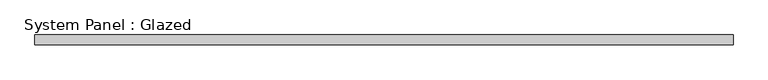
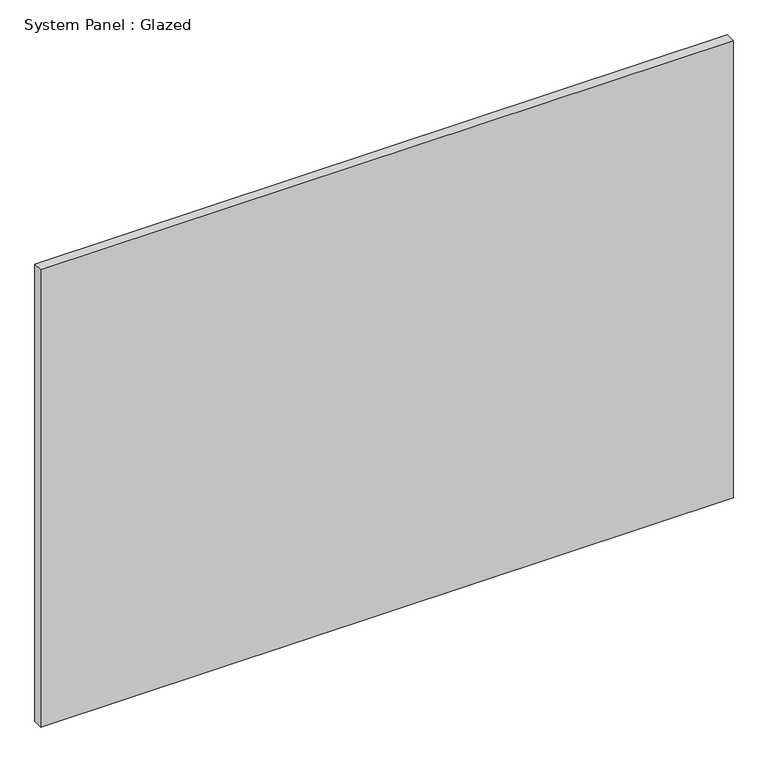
"""IFC4 building model written with IfcOpenShell, lengths in millimetres: plate geometry, System Panel : Glazed."""

from ifc_helpers import new_model, si_unit, origin, origin_with_axes, place, context, project, spatial, polyline, outline, extrude, source, transform, mapped, element, save


def system_panel_glazed_14748420(model_context):
    return source(origin(), model_context, "Body", "SweptSolid", [
        extrude(outline(polyline([(702.0, -40.0), (-702.0, -40.0), (-702.0, -20.0), (702.0, -20.0), (702.0, -40.0)])), origin_with_axes(), (0.0, 0.0, 1.0), 980.0),
    ])


if __name__ == "__main__":
    model = new_model("IFC4")
    model_context = context("Model", 3, world=origin())
    ifc_project = project(units=[si_unit("LENGTHUNIT", "METRE", prefix="MILLI")], contexts=[model_context])
    site = spatial("IfcSite", under=ifc_project)
    building = spatial("IfcBuilding", under=site)
    placement = place(None, origin())
    system_panel_glazed_shape = system_panel_glazed_14748420(model_context)
    element("IfcPlate", 1, ObjectType="System Panel : Glazed", at=placement, inside=building, context=model_context, shape_type="MappedRepresentation", body=[
        mapped(system_panel_glazed_shape, transform((0.0, 0.0, 0.0), x_axis=(1.0, 0.0, 0.0), y_axis=(0.0, 1.0, 0.0), z_axis=(0.0, 0.0, 1.0))),
    ])
    save(model, "model.ifc")
